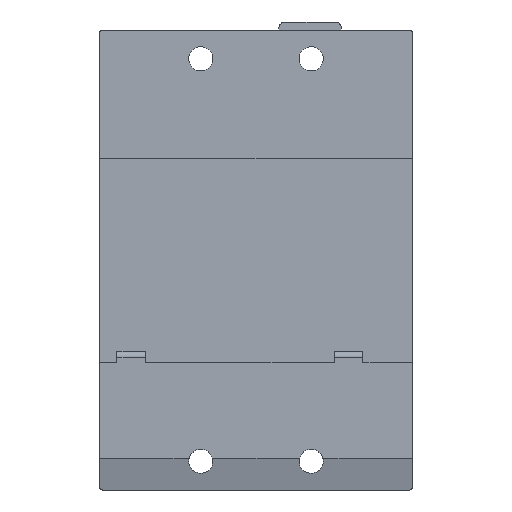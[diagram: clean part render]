
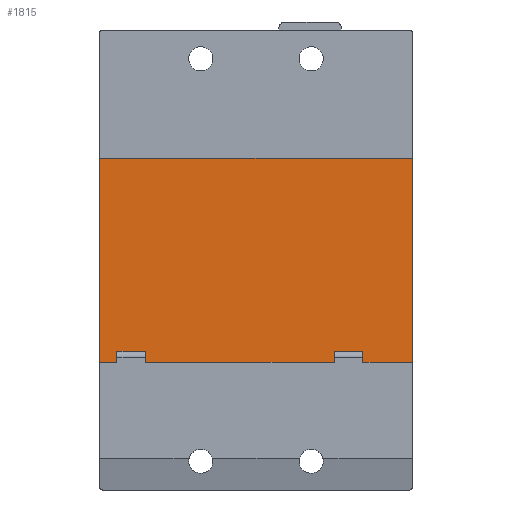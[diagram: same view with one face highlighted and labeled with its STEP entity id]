
A CAD part, front view. The second image highlights one B-rep face of the part: STEP entity #1815.
In plain terms, the highlighted planar face has unit normal (0, -1, 0).
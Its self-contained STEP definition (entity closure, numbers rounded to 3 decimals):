
#325 = ORIENTED_EDGE ( 'NONE', *, *, #6109, .F. ) ;
#397 = ORIENTED_EDGE ( 'NONE', *, *, #1571, .T. ) ;
#440 = VERTEX_POINT ( 'NONE', #4995 ) ;
#742 = CARTESIAN_POINT ( 'NONE',  ( -27.2, 5., 17.7 ) ) ;
#802 = EDGE_CURVE ( 'NONE', #4617, #3024, #1642, .T. ) ;
#867 = VECTOR ( 'NONE', #1320, 1000. ) ;
#889 = VECTOR ( 'NONE', #5466, 1000. ) ;
#893 = CARTESIAN_POINT ( 'NONE',  ( -27.2, 5., 17.7 ) ) ;
#1304 = AXIS2_PLACEMENT_3D ( 'NONE', #2800, #4826, #2356 ) ;
#1320 = DIRECTION ( 'NONE',  ( 1., 0., 0. ) ) ;
#1353 = CARTESIAN_POINT ( 'NONE',  ( 27.2, 5., -17.8 ) ) ;
#1571 = EDGE_CURVE ( 'NONE', #4617, #5558, #3754, .T. ) ;
#1642 = LINE ( 'NONE', #4093, #889 ) ;
#1815 = ADVANCED_FACE ( 'NONE', ( #2832 ), #3397, .F. ) ;
#2033 = CARTESIAN_POINT ( 'NONE',  ( -27.2, 5., -17.8 ) ) ;
#2260 = CARTESIAN_POINT ( 'NONE',  ( -27.2, 5., -17.8 ) ) ;
#2356 = DIRECTION ( 'NONE',  ( 0., 0., 1. ) ) ;
#2800 = CARTESIAN_POINT ( 'NONE',  ( -27.2, 5., 17.7 ) ) ;
#2832 = FACE_OUTER_BOUND ( 'NONE', #2914, .T. ) ;
#2914 = EDGE_LOOP ( 'NONE', ( #3742, #325, #5185, #397 ) ) ;
#3024 = VERTEX_POINT ( 'NONE', #893 ) ;
#3208 = DIRECTION ( 'NONE',  ( 1., 0., 0. ) ) ;
#3397 = PLANE ( 'NONE',  #1304 ) ;
#3742 = ORIENTED_EDGE ( 'NONE', *, *, #5397, .T. ) ;
#3754 = LINE ( 'NONE', #2260, #5467 ) ;
#4008 = DIRECTION ( 'NONE',  ( 0., 0., 1. ) ) ;
#4093 = CARTESIAN_POINT ( 'NONE',  ( -27.2, 5., 17.7 ) ) ;
#4111 = LINE ( 'NONE', #742, #867 ) ;
#4409 = VECTOR ( 'NONE', #4008, 1000. ) ;
#4459 = LINE ( 'NONE', #4840, #4409 ) ;
#4617 = VERTEX_POINT ( 'NONE', #2033 ) ;
#4826 = DIRECTION ( 'NONE',  ( 0., 1., 0. ) ) ;
#4840 = CARTESIAN_POINT ( 'NONE',  ( 27.2, 5., 17.7 ) ) ;
#4995 = CARTESIAN_POINT ( 'NONE',  ( 27.2, 5., 17.7 ) ) ;
#5185 = ORIENTED_EDGE ( 'NONE', *, *, #802, .F. ) ;
#5397 = EDGE_CURVE ( 'NONE', #5558, #440, #4459, .T. ) ;
#5466 = DIRECTION ( 'NONE',  ( 0., 0., 1. ) ) ;
#5467 = VECTOR ( 'NONE', #3208, 1000. ) ;
#5558 = VERTEX_POINT ( 'NONE', #1353 ) ;
#6109 = EDGE_CURVE ( 'NONE', #3024, #440, #4111, .T. ) ;
